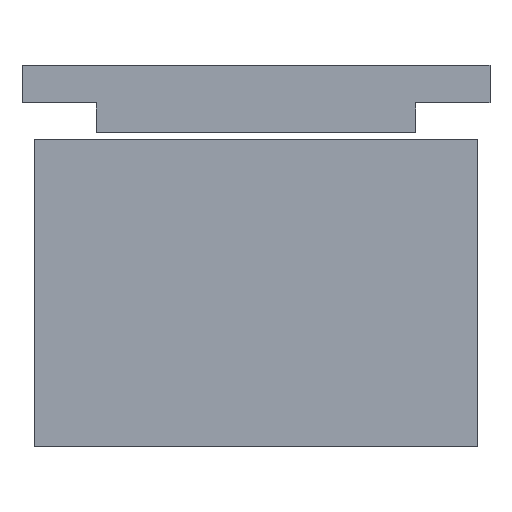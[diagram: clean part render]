
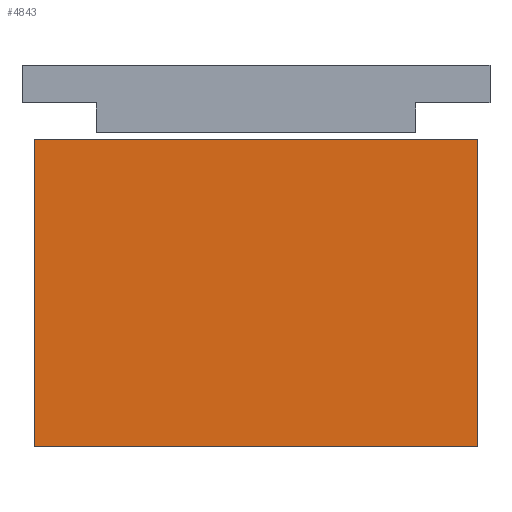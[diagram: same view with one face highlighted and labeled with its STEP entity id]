
A CAD part, left-side view. The second image highlights one B-rep face of the part: STEP entity #4843.
In plain terms, the highlighted planar face has unit normal (-1, 0, 0).
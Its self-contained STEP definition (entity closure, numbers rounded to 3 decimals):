
#23 = CARTESIAN_POINT ( 'NONE',  ( -140., -35.5, 49.3 ) ) ;
#160 = DIRECTION ( 'NONE',  ( 0., -1., 0. ) ) ;
#638 = DIRECTION ( 'NONE',  ( 0., 0., -1. ) ) ;
#815 = ORIENTED_EDGE ( 'NONE', *, *, #3648, .T. ) ;
#1178 = CARTESIAN_POINT ( 'NONE',  ( -140., 35.5, 49.3 ) ) ;
#1230 = ORIENTED_EDGE ( 'NONE', *, *, #4026, .T. ) ;
#1532 = VECTOR ( 'NONE', #3956, 1000. ) ;
#1808 = CARTESIAN_POINT ( 'NONE',  ( -140., -35.5, 0. ) ) ;
#2080 = CARTESIAN_POINT ( 'NONE',  ( -140., -35.5, 49.3 ) ) ;
#2098 = DIRECTION ( 'NONE',  ( 0., 0., -1. ) ) ;
#2190 = VERTEX_POINT ( 'NONE', #2674 ) ;
#2207 = DIRECTION ( 'NONE',  ( 0., -1., 0. ) ) ;
#2287 = CARTESIAN_POINT ( 'NONE',  ( -140., -35.5, 49.3 ) ) ;
#2325 = FACE_OUTER_BOUND ( 'NONE', #2678, .T. ) ;
#2601 = VECTOR ( 'NONE', #2098, 1000. ) ;
#2674 = CARTESIAN_POINT ( 'NONE',  ( -140., 35.5, 0. ) ) ;
#2678 = EDGE_LOOP ( 'NONE', ( #815, #5359, #5235, #1230 ) ) ;
#2815 = VECTOR ( 'NONE', #160, 1000. ) ;
#2930 = CARTESIAN_POINT ( 'NONE',  ( -140., 35.5, 49.3 ) ) ;
#3099 = CARTESIAN_POINT ( 'NONE',  ( -140., -35.5, 49.3 ) ) ;
#3185 = EDGE_CURVE ( 'NONE', #5487, #5023, #4955, .T. ) ;
#3225 = LINE ( 'NONE', #3099, #1532 ) ;
#3251 = CARTESIAN_POINT ( 'NONE',  ( -140., -35.5, 0. ) ) ;
#3481 = LINE ( 'NONE', #1808, #2815 ) ;
#3557 = VECTOR ( 'NONE', #2207, 1000. ) ;
#3584 = DIRECTION ( 'NONE',  ( 1., 0., 0. ) ) ;
#3608 = EDGE_CURVE ( 'NONE', #5023, #5414, #3225, .T. ) ;
#3648 = EDGE_CURVE ( 'NONE', #2190, #5414, #3481, .T. ) ;
#3956 = DIRECTION ( 'NONE',  ( 0., 0., -1. ) ) ;
#4026 = EDGE_CURVE ( 'NONE', #5487, #2190, #4348, .T. ) ;
#4348 = LINE ( 'NONE', #2930, #2601 ) ;
#4774 = AXIS2_PLACEMENT_3D ( 'NONE', #2287, #3584, #638 ) ;
#4843 = ADVANCED_FACE ( 'NONE', ( #2325 ), #5338, .F. ) ;
#4955 = LINE ( 'NONE', #23, #3557 ) ;
#5023 = VERTEX_POINT ( 'NONE', #2080 ) ;
#5235 = ORIENTED_EDGE ( 'NONE', *, *, #3185, .F. ) ;
#5338 = PLANE ( 'NONE',  #4774 ) ;
#5359 = ORIENTED_EDGE ( 'NONE', *, *, #3608, .F. ) ;
#5414 = VERTEX_POINT ( 'NONE', #3251 ) ;
#5487 = VERTEX_POINT ( 'NONE', #1178 ) ;
